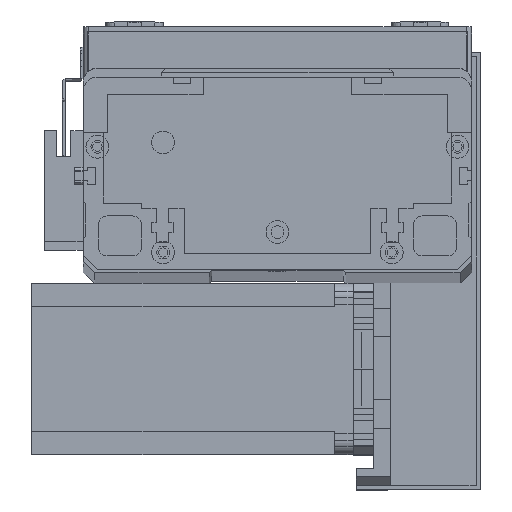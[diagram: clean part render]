
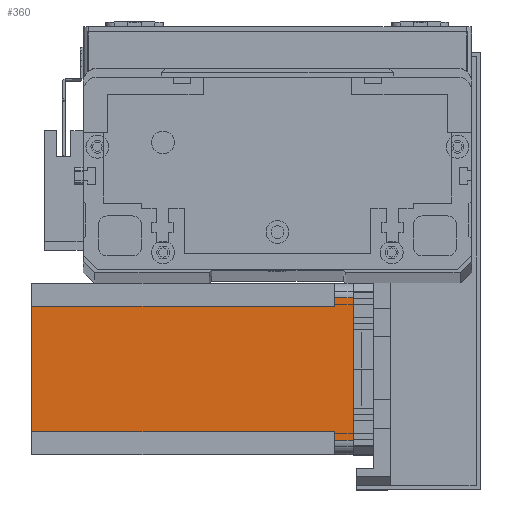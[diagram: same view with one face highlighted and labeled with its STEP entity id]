
A CAD part, top view. The second image highlights one B-rep face of the part: STEP entity #360.
In plain terms, the highlighted planar face has unit normal (0, 0, 1) as drawn and (0, -1, 0) by its records, which use the part's own axes.
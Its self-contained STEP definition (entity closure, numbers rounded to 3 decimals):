
#226 = VERTEX_POINT ( 'NONE', #14296 ) ;
#360 = ADVANCED_FACE ( 'NONE', ( #4135 ), #15506, .T. ) ;
#931 = CARTESIAN_POINT ( 'NONE',  ( 55., 0., -112.5 ) ) ;
#1041 = DIRECTION ( 'NONE',  ( 0., 0., -1. ) ) ;
#1243 = ORIENTED_EDGE ( 'NONE', *, *, #10888, .F. ) ;
#1406 = VERTEX_POINT ( 'NONE', #11442 ) ;
#1971 = CARTESIAN_POINT ( 'NONE',  ( 0., 0., 0. ) ) ;
#3325 = LINE ( 'NONE', #1971, #27470 ) ;
#3414 = LINE ( 'NONE', #4160, #21479 ) ;
#4135 = FACE_OUTER_BOUND ( 'NONE', #28389, .T. ) ;
#4160 = CARTESIAN_POINT ( 'NONE',  ( 0., 0., -112.5 ) ) ;
#4371 = EDGE_CURVE ( 'NONE', #25249, #1406, #29764, .T. ) ;
#4489 = VECTOR ( 'NONE', #25167, 1000. ) ;
#4850 = ORIENTED_EDGE ( 'NONE', *, *, #20552, .T. ) ;
#4953 = VECTOR ( 'NONE', #22011, 1000. ) ;
#5177 = CARTESIAN_POINT ( 'NONE',  ( 55., 0., 0. ) ) ;
#5727 = VECTOR ( 'NONE', #6243, 1000. ) ;
#6243 = DIRECTION ( 'NONE',  ( -1., 0., 0. ) ) ;
#7134 = CARTESIAN_POINT ( 'NONE',  ( 8., 0., -6.5 ) ) ;
#7450 = EDGE_CURVE ( 'NONE', #14032, #20244, #3325, .T. ) ;
#8676 = ORIENTED_EDGE ( 'NONE', *, *, #14674, .T. ) ;
#9444 = ORIENTED_EDGE ( 'NONE', *, *, #19925, .T. ) ;
#10242 = CARTESIAN_POINT ( 'NONE',  ( 5., 0., 0. ) ) ;
#10648 = CARTESIAN_POINT ( 'NONE',  ( 8., 0., -112.5 ) ) ;
#10888 = EDGE_CURVE ( 'NONE', #14134, #25249, #17025, .T. ) ;
#11239 = LINE ( 'NONE', #931, #4953 ) ;
#11442 = CARTESIAN_POINT ( 'NONE',  ( 5., 0., -6.5 ) ) ;
#11832 = EDGE_CURVE ( 'NONE', #27515, #226, #29920, .T. ) ;
#12369 = CARTESIAN_POINT ( 'NONE',  ( 55., 0., -6.5 ) ) ;
#13331 = DIRECTION ( 'NONE',  ( 1., 0., 0. ) ) ;
#13551 = CARTESIAN_POINT ( 'NONE',  ( 5., 0., -112.5 ) ) ;
#14032 = VERTEX_POINT ( 'NONE', #10242 ) ;
#14134 = VERTEX_POINT ( 'NONE', #10648 ) ;
#14296 = CARTESIAN_POINT ( 'NONE',  ( 52., 0., -112.5 ) ) ;
#14299 = VECTOR ( 'NONE', #13331, 1000. ) ;
#14674 = EDGE_CURVE ( 'NONE', #15125, #20244, #11239, .T. ) ;
#15125 = VERTEX_POINT ( 'NONE', #12369 ) ;
#15172 = CARTESIAN_POINT ( 'NONE',  ( 8., 0., -6.5 ) ) ;
#15506 = PLANE ( 'NONE',  #20656 ) ;
#15560 = CARTESIAN_POINT ( 'NONE',  ( 0., 0., -112.5 ) ) ;
#15604 = DIRECTION ( 'NONE',  ( 0., -1., 0. ) ) ;
#15619 = DIRECTION ( 'NONE',  ( 0., 0., -1. ) ) ;
#17025 = LINE ( 'NONE', #29935, #23244 ) ;
#17064 = LINE ( 'NONE', #13551, #4489 ) ;
#17254 = EDGE_CURVE ( 'NONE', #27515, #15125, #26654, .T. ) ;
#17517 = CARTESIAN_POINT ( 'NONE',  ( 52., 0., -112.5 ) ) ;
#18277 = DIRECTION ( 'NONE',  ( 1., 0., 0. ) ) ;
#18467 = DIRECTION ( 'NONE',  ( 0., 0., 1. ) ) ;
#19925 = EDGE_CURVE ( 'NONE', #14134, #226, #3414, .T. ) ;
#20103 = ORIENTED_EDGE ( 'NONE', *, *, #4371, .F. ) ;
#20244 = VERTEX_POINT ( 'NONE', #5177 ) ;
#20552 = EDGE_CURVE ( 'NONE', #14032, #1406, #17064, .T. ) ;
#20656 = AXIS2_PLACEMENT_3D ( 'NONE', #15560, #15604, #15619 ) ;
#21479 = VECTOR ( 'NONE', #18277, 1000. ) ;
#22011 = DIRECTION ( 'NONE',  ( 0., 0., 1. ) ) ;
#23171 = DIRECTION ( 'NONE',  ( 1., 0., 0. ) ) ;
#23244 = VECTOR ( 'NONE', #18467, 1000. ) ;
#23956 = CARTESIAN_POINT ( 'NONE',  ( 52., 0., -6.5 ) ) ;
#25167 = DIRECTION ( 'NONE',  ( 0., 0., -1. ) ) ;
#25227 = ORIENTED_EDGE ( 'NONE', *, *, #17254, .T. ) ;
#25249 = VERTEX_POINT ( 'NONE', #15172 ) ;
#25326 = VECTOR ( 'NONE', #1041, 1000. ) ;
#26654 = LINE ( 'NONE', #27196, #14299 ) ;
#26673 = ORIENTED_EDGE ( 'NONE', *, *, #11832, .F. ) ;
#27196 = CARTESIAN_POINT ( 'NONE',  ( 52., 0., -6.5 ) ) ;
#27470 = VECTOR ( 'NONE', #23171, 1000. ) ;
#27515 = VERTEX_POINT ( 'NONE', #23956 ) ;
#28389 = EDGE_LOOP ( 'NONE', ( #25227, #8676, #28487, #4850, #20103, #1243, #9444, #26673 ) ) ;
#28487 = ORIENTED_EDGE ( 'NONE', *, *, #7450, .F. ) ;
#29764 = LINE ( 'NONE', #7134, #5727 ) ;
#29920 = LINE ( 'NONE', #17517, #25326 ) ;
#29935 = CARTESIAN_POINT ( 'NONE',  ( 8., 0., -112.5 ) ) ;
